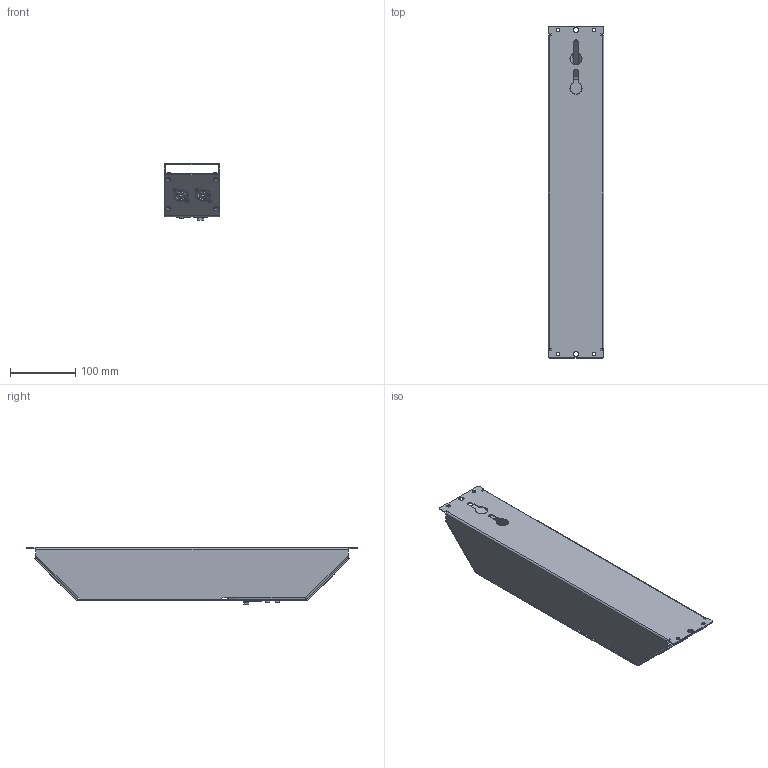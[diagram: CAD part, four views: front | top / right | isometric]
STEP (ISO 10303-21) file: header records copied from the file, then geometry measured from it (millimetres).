
FILE_DESCRIPTION (( 'STEP AP203' ), '1' );
FILE_NAME ('SEEBURG_Powerstick.STEP', '2014-04-04T07:27:11', ( 'Michael Anter' ), ( 'SEEBURG acoustic line GmbH' ), 'SwSTEP 2.0', 'SolidWorks 2009', '' );
FILE_SCHEMA (( 'CONFIG_CONTROL_DESIGN' ));
Length unit declared in the file: millimetre
Products named in the file (15): SEEBURG_Powerstick; BlechGehäuse; Powerstick; io-Board_type-c_Rev-2; Platine_io-Board; XLR-print-female; XLR-print-male; Schalter_io-Board; Printschalter; Druckknopf; Leuchtdiode; Einschub_Rückwand; PowerCon-blau; PowerCon-grau; Speakonbuchse
Assembly tree (21 placements, depth 5):
  SEEBURG_Powerstick
    BlechGehäuse
    Powerstick
      PowerCon-grau
      Speakonbuchse  x2
      io-Board_type-c_Rev-2
        Leuchtdiode  x6
        Platine_io-Board
        Schalter_io-Board  x2
          Printschalter
          Druckknopf
        XLR-print-female
        XLR-print-male
      PowerCon-blau
      Einschub_Rückwand
Bounding box: 85 x 507.75 x 86.05 mm (x, y, z)
Volume: 327811.3 mm3; surface area: 370948.9 mm2
Topology: 20 solids, 20 shells, 1361 faces, 3486 edges, 2236 vertices
Faces by surface type: plane 702, cylinder 483, cone 148, torus 14, bspline 12, sphere 2
Entity records: 35197 total; most frequent: CARTESIAN_POINT 6447, DIRECTION 5850, ORIENTED_EDGE 5444, EDGE_CURVE 2722, AXIS2_PLACEMENT_3D 2093, VERTEX_POINT 1732, VECTOR 1664, LINE 1664
